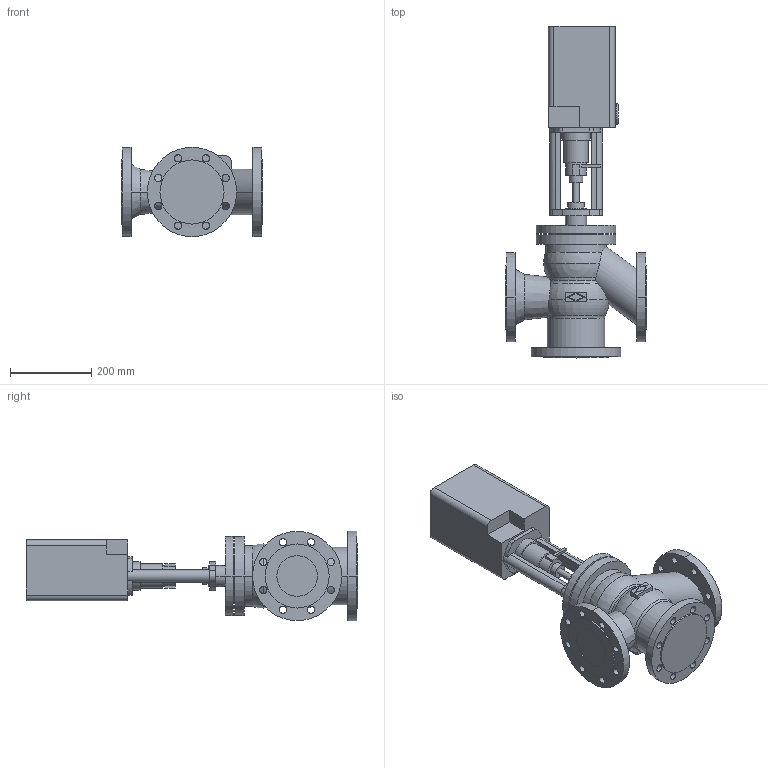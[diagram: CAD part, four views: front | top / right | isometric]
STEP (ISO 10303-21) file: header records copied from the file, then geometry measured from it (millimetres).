
FILE_DESCRIPTION(('OneSpaceDesigner STEP Export'),'2;1');
FILE_NAME('c000002383.stp','2006-09-19T11:54:20',(''),(''),'OneSpace Designer STEP processor for AP214 (Solid Model)','OneSpace Designer 13.20A 18-Aug-2005 (C) CoCreate Software GmbH','');
FILE_SCHEMA(('AUTOMOTIVE_DESIGN { 1 0 10303 214 1 1 1 1 }'));
Length unit declared in the file: millimetre
Products named in the file (2): 1; 2
Bounding box: 350 x 818.5 x 220 mm (x, y, z)
Volume: 17026778.9 mm3; surface area: 817269.7 mm2
Topology: 2 solids, 2 shells, 218 faces, 565 edges, 371 vertices
Faces by surface type: cylinder 112, plane 86, torus 12, sphere 4, cone 4
Entity records: 6185 total; most frequent: CARTESIAN_POINT 1211, ORIENTED_EDGE 1122, DIRECTION 899, EDGE_CURVE 561, VERTEX_POINT 371, AXIS2_PLACEMENT_3D 321, EDGE_LOOP 290, VECTOR 257
